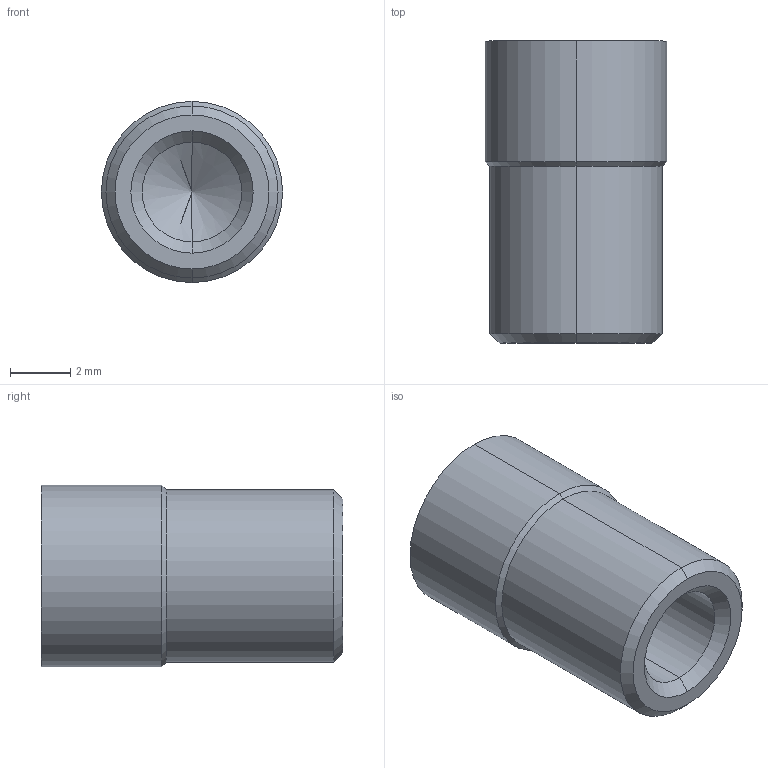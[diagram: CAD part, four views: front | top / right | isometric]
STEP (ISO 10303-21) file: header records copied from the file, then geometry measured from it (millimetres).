
FILE_DESCRIPTION (( 'STEP AP203' ), '1' );
FILE_NAME ('IR-6_PEHD.STEP', '2016-04-11T06:46:44', ( 'Balzi' ), ( '' ), 'SwSTEP 2.0', 'SolidWorks 2015', '' );
FILE_SCHEMA (( 'CONFIG_CONTROL_DESIGN' ));
Length unit declared in the file: millimetre
Products named in the file (1): IR-6_PEHD
Bounding box: 6 x 10 x 6 mm (x, y, z)
Volume: 199.1 mm3; surface area: 323.9 mm2
Topology: 1 solids, 1 shells, 244 faces, 677 edges, 447 vertices
Faces by surface type: plane 216, cylinder 20, cone 8
Entity records: 7728 total; most frequent: CARTESIAN_POINT 1367, ORIENTED_EDGE 1350, DIRECTION 1209, EDGE_CURVE 675, VECTOR 631, LINE 631, VERTEX_POINT 447, AXIS2_PLACEMENT_3D 289
